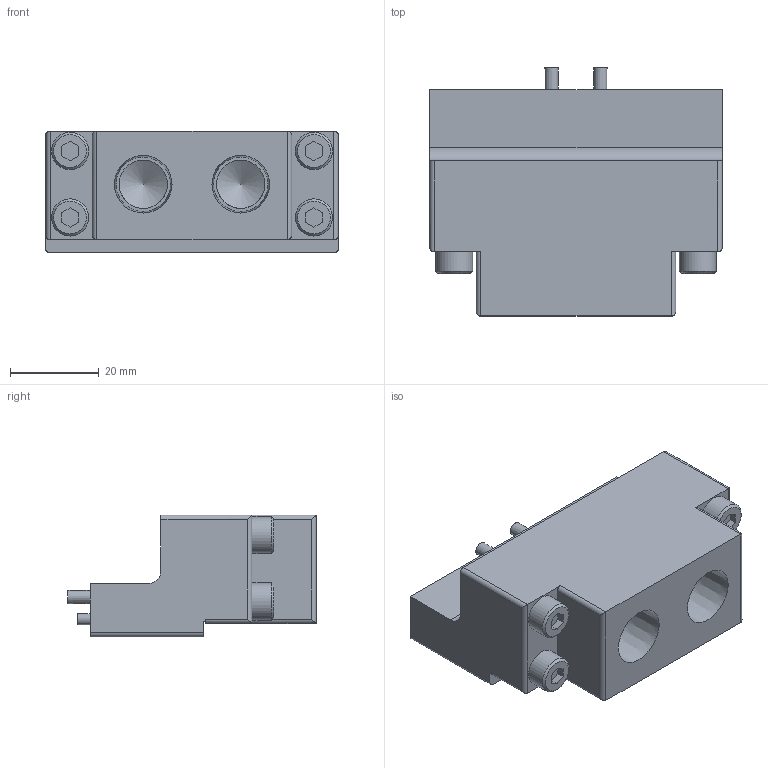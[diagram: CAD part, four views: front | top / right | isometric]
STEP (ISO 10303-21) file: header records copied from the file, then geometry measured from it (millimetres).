
FILE_DESCRIPTION(('STEP AP214'),'1');
FILE_NAME('KHG-12RS-EP82_ver1.stp','2026-05-18T00:23:29',(' '),(' '),'Spatial InterOp 3D',' ',' ');
FILE_SCHEMA(('AUTOMOTIVE_DESIGN { 1 0 10303 214 1 1 1 1 }'));
Length unit declared in the file: millimetre
Products named in the file (1): KHG-12RS-EP82_ver1
Bounding box: 66 x 56 x 27.5 mm (x, y, z)
Volume: 58292.1 mm3; surface area: 17513.1 mm2
Topology: 1 solids, 11 shells, 161 faces, 350 edges, 231 vertices
Faces by surface type: plane 100, cylinder 45, cone 16
Full cylindrical faces by diameter (mm): 2.5 x2, 3 x2, 3.5 x2, 4 x2, 4.2 x4, 5.41 x2, 5.5 x4, 6.5 x2, 8.385 x4, 9 x2, 10.9 x2
Entity records: 5441 total; most frequent: CARTESIAN_POINT 821, DIRECTION 707, ORIENTED_EDGE 564, EDGE_CURVE 282, AXIS2_PLACEMENT_3D 265, EDGE_LOOP 239, VERTEX_POINT 211, FACE_OUTER_BOUND 189
